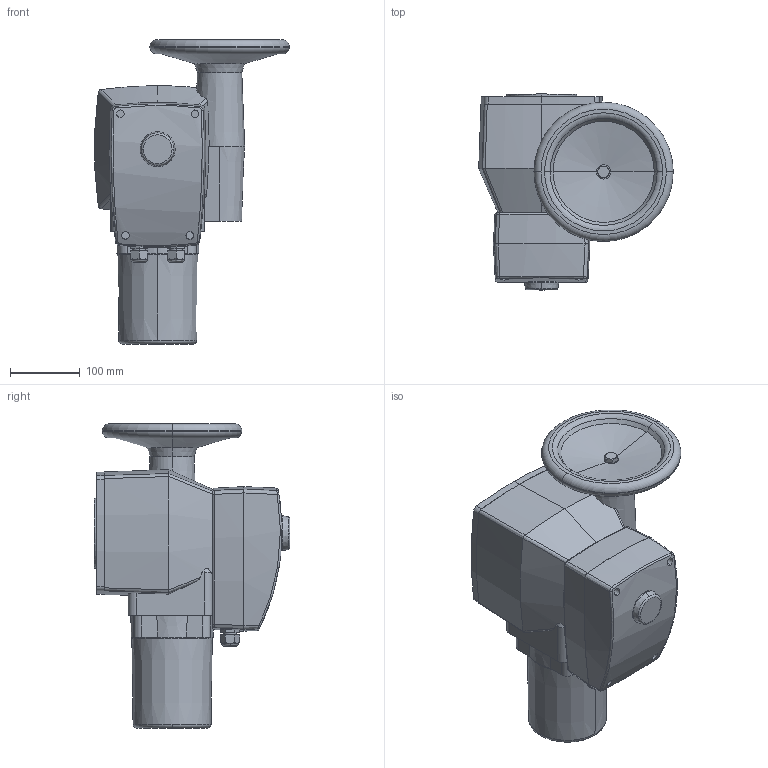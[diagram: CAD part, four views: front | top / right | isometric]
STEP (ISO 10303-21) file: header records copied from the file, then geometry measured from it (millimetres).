
FILE_DESCRIPTION((''),'2;1');
FILE_NAME('SQL36E160.stp','2007-11-19T11:44:04',(''),(''),'Mechanical Desktop 2008','Mechanical Desktop 2008',', , ');
FILE_SCHEMA(('AUTOMOTIVE_DESIGN { 1 2 10303 214 1 1 1 1 }'));
Length unit declared in the file: millimetre
Products named in the file (1): SQL36E160
Bounding box: 279.29 x 281.28 x 437.16 mm (x, y, z)
Volume: 11298111.8 mm3; surface area: 654333.9 mm2
Topology: 12 solids, 12 shells, 229 faces, 542 edges, 348 vertices
Faces by surface type: bspline 82, plane 56, cone 44, cylinder 29, torus 17, sphere 1
Entity records: 10970 total; most frequent: CARTESIAN_POINT 6094, ORIENTED_EDGE 1084, DIRECTION 864, EDGE_CURVE 542, VERTEX_POINT 348, AXIS2_PLACEMENT_3D 343, EDGE_LOOP 240, FACE_OUTER_BOUND 229
